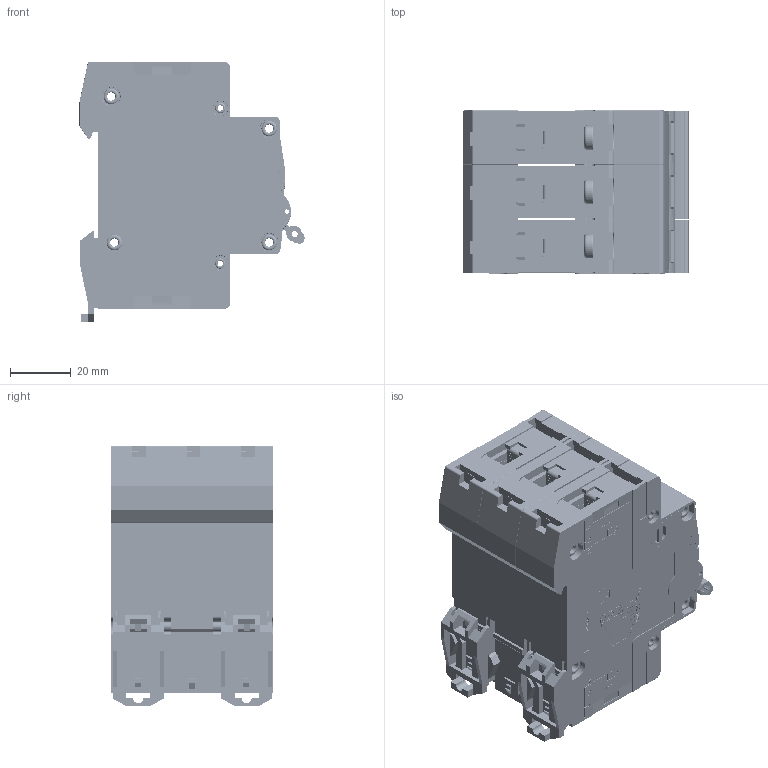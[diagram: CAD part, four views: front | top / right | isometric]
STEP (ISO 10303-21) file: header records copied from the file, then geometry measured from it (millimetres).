
FILE_DESCRIPTION (( 'STEP AP214' ), '1' );
FILE_NAME ('TDZ-3B-40.STEP', '2026-04-30T13:02:15', ( '' ), ( '' ), 'SwSTEP 2.0', 'SolidWorks 2025', '' );
FILE_SCHEMA (( 'AUTOMOTIVE_DESIGN' ));
Length unit declared in the file: millimetre
Products named in the file (1): TDZ-3B-40
Bounding box: 73.85 x 53.4 x 85.3 mm (x, y, z)
Volume: 89398.3 mm3; surface area: 141644.4 mm2
Topology: 44 solids, 44 shells, 11832 faces, 33446 edges, 22229 vertices
Faces by surface type: plane 7428, cylinder 2742, bspline 1233, torus 291, cone 138
Entity records: 598567 total; most frequent: CARTESIAN_POINT 174151, ORIENTED_EDGE 66820, DIRECTION 55886, EDGE_CURVE 33410, VECTOR 23406, LINE 23406, VERTEX_POINT 22229, AXIS2_PLACEMENT_3D 16240
